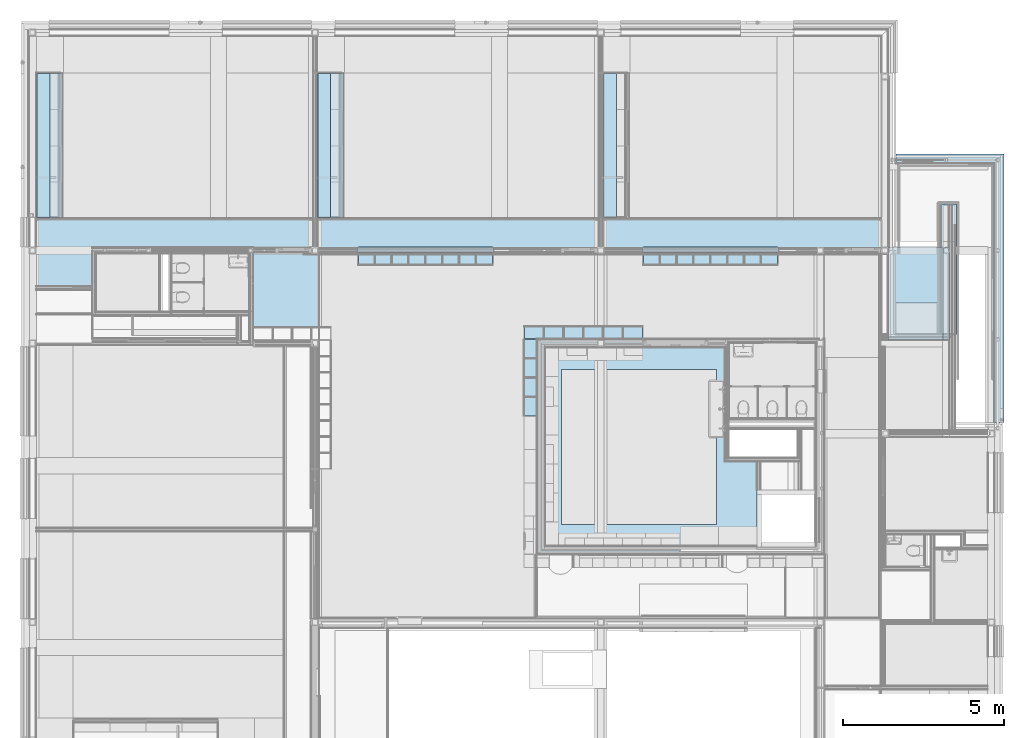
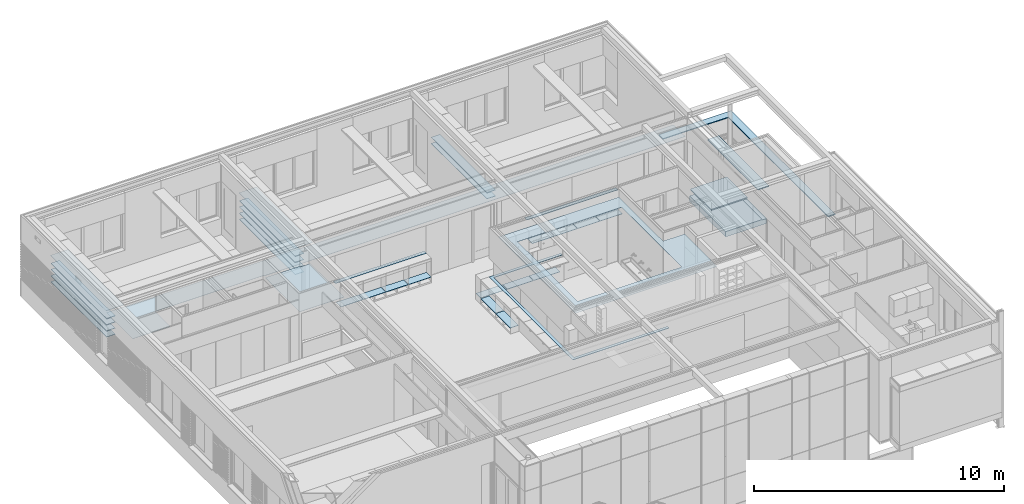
# One storey, part 40 of 137: 35 slabs.
"""IFC2X3 building model written with IfcOpenShell, lengths in millimetres."""

from ifc_helpers import new_model, entity, si_unit, converted_unit, derived_unit, money_unit, direction, frame, origin_with_axes, place, context, subcontext, project, spatial, faceted_brep, material, type_object, element, save


model = new_model("IFC2X3")

# Units and contexts
model_context = context("Model", 3, precision=0.01, world=origin_with_axes(), true_north=direction((0.0, 1.0)))
body_context = subcontext(model_context, "Body", "Model", "MODEL_VIEW")
ifc_project = project(units=[si_unit("LENGTHUNIT", "METRE", prefix="MILLI"), si_unit("AREAUNIT", "SQUARE_METRE"), si_unit("VOLUMEUNIT", "CUBIC_METRE"), converted_unit("PLANEANGLEUNIT", "DEGREE", entity("IfcPlaneAngleMeasure", 0.0174532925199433), si_unit("PLANEANGLEUNIT", "RADIAN"), dimensions=[0, 0, 0, 0, 0, 0, 0]), money_unit("EUR"), converted_unit("TIMEUNIT", "Year", entity("IfcTimeMeasure", 31556926.0), si_unit("TIMEUNIT", "SECOND"), dimensions=[0, 0, 1, 0, 0, 0, 0]), si_unit("MASSUNIT", "GRAM", prefix="KILO"), si_unit("THERMODYNAMICTEMPERATUREUNIT", "DEGREE_CELSIUS"), si_unit("LUMINOUSINTENSITYUNIT", "LUMEN"), si_unit("ENERGYUNIT", "JOULE", prefix="MEGA"), derived_unit("THERMALCONDUCTANCEUNIT", [(si_unit("POWERUNIT", "WATT"), 1), (si_unit("LENGTHUNIT", "METRE"), -1), (si_unit("THERMODYNAMICTEMPERATUREUNIT", "KELVIN"), -1)]), derived_unit("SPECIFICHEATCAPACITYUNIT", [(si_unit("ENERGYUNIT", "JOULE"), 1), (si_unit("MASSUNIT", "GRAM", prefix="KILO"), -1), (si_unit("THERMODYNAMICTEMPERATUREUNIT", "KELVIN"), -1)]), derived_unit("MASSDENSITYUNIT", [(si_unit("MASSUNIT", "GRAM", prefix="KILO"), 1), (si_unit("VOLUMEUNIT", "CUBIC_METRE"), -1)])], contexts=[model_context])

# Site, building, storey
site_placement = place(None, origin_with_axes())
site = spatial("IfcSite", under=ifc_project, at=site_placement, Name="Site", CompositionType="ELEMENT")
building_placement = place(site_placement, origin_with_axes())
building = spatial("IfcBuilding", under=site, at=building_placement, Name="Naam gebouw", CompositionType="ELEMENT")
storey_placement = place(building_placement, frame((0.0, 0.0, 3960.0), z_axis=(0.0, 0.0, 1.0), x_axis=(1.0, 0.0, 0.0)))
storey = spatial("IfcBuildingStorey", under=building, at=storey_placement, Name="1e verdieping", CompositionType="ELEMENT", Elevation=3960.0)

# Slabs
ifc_material_1 = material(Name="Gipsplaat")
slab_type_1 = type_object("IfcSlabType", Name="Gipsplaat 12", PredefinedType="NOTDEFINED")
slab_1_placement = place(storey_placement, frame((213.9999999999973, 21219.97621406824, 2600.0), z_axis=(0.0, 0.0, 1.0), x_axis=(1.0, 0.0, 0.0)))
element("IfcSlab", 1, at=slab_1_placement, inside=storey, type_object=slab_type_1, material=ifc_material_1, Name="f7 Vormvaste grondstoffen, gebonden met gips_Vloer-x", PredefinedType="NOTDEFINED", context=body_context, shape_type="Brep", body=[
    faceted_brep([(0.0, 0.0, 11.99999999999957), (0.0, 0.0, 0.0), (1730.000000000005, 0.0, 0.0), (1730.000000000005, 0.0, 11.99999999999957), (0.0, 2105.023633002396, 11.99999999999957), (0.0, 2105.023633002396, 0.0), (26172.00000000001, 2105.023633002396, 0.0), (26172.00000000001, 1167.49999999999, 0.0), (6726.000000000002, 1167.49999999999, 0.0), (6726.000000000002, 1200.000000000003, 0.0), (1730.000000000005, 1200.000000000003, 0.0), (1730.000000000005, 1200.000000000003, 11.99999999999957), (6726.000000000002, 1200.000000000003, 11.99999999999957), (6726.000000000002, 1167.49999999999, 11.99999999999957), (26172.00000000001, 1167.49999999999, 11.99999999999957), (26172.00000000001, 2105.023633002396, 11.99999999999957)], [[[0, 1, 2, 3]], [[4, 5, 1, 0]], [[2, 1, 5, 6, 7, 8, 9, 10]], [[3, 2, 10, 11]], [[4, 0, 3, 11, 12, 13, 14, 15]], [[15, 6, 5, 4]], [[14, 7, 6, 15]], [[13, 8, 7, 14]], [[12, 9, 8, 13]], [[11, 10, 9, 12]]]),
])
slab_2_placement = place(storey_placement, frame((6930.000000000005, 22262.47621406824, 2600.0), z_axis=(0.0, 0.0, 1.0), x_axis=(1.0, 0.0, 0.0)))
element("IfcSlab", 2, at=slab_2_placement, inside=storey, type_object=slab_type_1, material=ifc_material_1, Name="f7 Vormvaste grondstoffen, gebonden met gips_Vloer-x", PredefinedType="NOTDEFINED", context=body_context, shape_type="Brep", body=[
    faceted_brep([(2055.0, -2749.97640284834, 0.0), (2054.999997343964, -50.00000000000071, 0.0), (2054.999997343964, -50.00000000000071, 11.99999999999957), (2055.0, -2749.97640284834, 11.99999999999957), (1576.753722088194, 0.0, 0.0), (1576.753722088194, -50.00000000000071, 0.0), (0.0, -2749.97640284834, 0.0), (0.0, 0.0, 0.0), (1576.753722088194, -50.00000000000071, 11.99999999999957), (1576.753722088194, 0.0, 11.99999999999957), (0.0, 0.0, 11.99999999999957), (0.0, -2749.97640284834, 11.99999999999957)], [[[0, 1, 2, 3]], [[4, 5, 1, 0, 6, 7]], [[5, 8, 2, 1]], [[2, 8, 9, 10, 11, 3]], [[3, 11, 6, 0]], [[5, 4, 9, 8]], [[11, 10, 7, 6]], [[10, 9, 4, 7]]]),
])
slab_3_placement = place(storey_placement, frame((15984.99909109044, 19314.9998112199, 3200.0), z_axis=(0.0, 0.0, 1.0), x_axis=(1.0, 0.0, 0.0)))
element("IfcSlab", 3, at=slab_3_placement, inside=storey, type_object=slab_type_1, material=ifc_material_1, Name="f7 Vormvaste grondstoffen, gebonden met gips_Vloer-x", PredefinedType="NOTDEFINED", context=body_context, shape_type="Brep", body=[
    faceted_brep([(0.0, 0.0, 12.00000000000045), (0.0, 0.0, 0.0), (0.0, -6140.002029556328, 0.0), (0.0, -6140.002029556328, 12.00000000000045), (5554.999948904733, 0.0, 12.00000000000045), (5554.999948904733, 0.0, 0.0), (5554.999948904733, -3540.002029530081, 0.0), (6549.999948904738, -3540.002029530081, 0.0), (6549.999948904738, -6140.002029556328, 0.0), (5300.000038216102, -670.0000273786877, 0.0), (500.0000382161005, -670.0000273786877, 0.0), (500.0000382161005, -5470.00002737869, 0.0), (5300.000038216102, -5470.00002737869, 0.0), (6549.999948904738, -6140.002029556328, 12.00000000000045), (6549.999948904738, -3540.002029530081, 12.00000000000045), (5554.999948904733, -3540.002029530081, 12.00000000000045), (500.0000382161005, -5470.00002737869, 12.00000000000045), (500.0000382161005, -670.0000273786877, 12.00000000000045), (5300.000038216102, -670.0000273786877, 12.00000000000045), (5300.000038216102, -5470.00002737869, 12.00000000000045)], [[[0, 1, 2, 3]], [[4, 5, 1, 0]], [[2, 1, 5, 6, 7, 8], [9, 10, 11, 12]], [[3, 2, 8, 13]], [[4, 0, 3, 13, 14, 15], [16, 17, 18, 19]], [[15, 6, 5, 4]], [[14, 7, 6, 15]], [[13, 8, 7, 14]], [[17, 10, 9, 18]], [[16, 11, 10, 17]], [[19, 12, 11, 16]], [[18, 9, 12, 19]]]),
])
ifc_material_2 = material(Name="Beton gewapend prefab vloer")
slab_type_2 = type_object("IfcSlabType", Name="23 Kanaalplaat 260 260", PredefinedType="NOTDEFINED")
slab_4_placement = place(storey_placement, frame((28500.00006871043, 22424.97621300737, -389.9999999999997), z_axis=(0.0, 0.0, 1.0), x_axis=(1.0, 0.0, 0.0)))
element("IfcSlab", 4, at=slab_4_placement, inside=storey, type_object=slab_type_2, material=ifc_material_2, Name="_Vloer-x", PredefinedType="NOTDEFINED", context=body_context, shape_type="Brep", body=[
    faceted_brep([(-10.00008455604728, -189.9999989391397, -260.0000000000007), (-190.000084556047, -189.9999989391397, -260.0000000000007), (-190.000084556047, -9.999998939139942, -260.0000000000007), (-10.00008455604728, -9.999998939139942, -260.0000000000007), (-10.00008455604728, -189.9999989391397, -20.00000000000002), (-190.000084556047, -189.9999989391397, -20.00000000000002), (-190.000084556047, -9.999998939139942, -20.00000000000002), (-10.00008455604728, -9.999998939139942, -20.00000000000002)], [[[0, 1, 2, 3]], [[0, 4, 5, 1]], [[1, 5, 6, 2]], [[2, 6, 7, 3]], [[3, 7, 4, 0]], [[6, 5, 4, 7]]]),
    faceted_brep([(-5.000085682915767, -2874.975820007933, -260.0000000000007), (-5.000085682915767, -199.9999989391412, -260.0000000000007), (-5.000085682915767, -199.9999989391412, -20.00000000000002), (-5.000085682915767, -2874.975820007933, -20.00000000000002), (-195.0000856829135, -2874.975817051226, -260.0000000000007), (-195.0000856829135, -199.9999989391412, -260.0000000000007), (-195.0000856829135, -199.9999989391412, -20.00000000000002), (-195.0000856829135, -2874.975817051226, -20.00000000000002)], [[[0, 1, 2, 3]], [[4, 5, 1, 0]], [[5, 6, 2, 1]], [[3, 2, 6, 7]], [[0, 3, 7, 4]], [[7, 6, 5, 4]]]),
    faceted_brep([(-1899.000068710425, -2874.97579053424, 0.0), (-201.0000856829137, -2874.975816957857, 0.0), (-201.0000856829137, 1.060861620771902e-06, 0.0), (-1899.000068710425, 2.9551500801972e-05, 0.0), (-1899.000068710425, -2874.97579053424, -260.0000000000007), (-201.0000856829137, -2874.975816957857, -260.0000000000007), (-201.0000856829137, 1.060861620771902e-06, -260.0000000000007), (-1899.000068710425, 2.9551500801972e-05, -260.0000000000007)], [[[0, 1, 2, 3]], [[4, 5, 1, 0]], [[5, 6, 2, 1]], [[3, 2, 6, 7]], [[4, 0, 3, 7]], [[7, 6, 5, 4]]]),
])
ifc_material_3 = material(Name="Hout AFW")
slab_type_3 = type_object("IfcSlabType", Name="Hout AFW 18", PredefinedType="NOTDEFINED")
slab_5_placement = place(storey_placement, frame((17764.99945704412, 19984.99981121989, 267.9999999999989), z_axis=(0.0, 0.0, 1.0), x_axis=(1.0, 0.0, 0.0)))
element("IfcSlab", 5, at=slab_5_placement, inside=storey, type_object=slab_type_3, material=ifc_material_3, Name="i HOUT_Vloer-x", PredefinedType="NOTDEFINED", context=body_context, shape_type="Brep", body=[
    faceted_brep([(0.0, 0.0, 17.99999999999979), (0.0, 0.0, 0.0), (-1199.999997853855, 0.0, 0.0), (-1199.999997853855, 0.0, 17.99999999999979), (0.0, -380.006513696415, 17.99999999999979), (0.0, -380.006513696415, 0.0), (-1199.999997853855, -380.006513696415, 0.0), (-1199.999997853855, -380.006513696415, 17.99999999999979)], [[[0, 1, 2, 3]], [[4, 5, 1, 0]], [[2, 1, 5, 6]], [[3, 2, 6, 7]], [[4, 0, 3, 7]], [[7, 6, 5, 4]]]),
])
slab_6_placement = place(storey_placement, frame((18994.99945671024, 19604.99329752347, 267.9999999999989), z_axis=(0.0, 0.0, 1.0), x_axis=(1.0, 0.0, 0.0)))
element("IfcSlab", 6, at=slab_6_placement, inside=storey, type_object=slab_type_3, material=ifc_material_3, Name="i HOUT_Vloer-x", PredefinedType="NOTDEFINED", context=body_context, shape_type="Brep", body=[
    faceted_brep([(0.0, 0.0, 17.99999999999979), (0.0, 0.0, 0.0), (0.0, 380.006513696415, 0.0), (0.0, 380.006513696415, 17.99999999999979), (-1209.999999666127, 0.0, 17.99999999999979), (-1209.999999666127, 0.0, 0.0), (-1209.999999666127, 380.006513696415, 0.0), (-1209.999999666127, 380.006513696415, 17.99999999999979)], [[[0, 1, 2, 3]], [[4, 5, 1, 0]], [[2, 1, 5, 6]], [[3, 2, 6, 7]], [[4, 0, 3, 7]], [[7, 6, 5, 4]]]),
])
slab_7_placement = place(storey_placement, frame((15314.99945671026, 18374.9998112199, 267.9999999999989), z_axis=(0.0, 0.0, 1.0), x_axis=(1.0, 0.0, 0.0)))
element("IfcSlab", 7, at=slab_7_placement, inside=storey, type_object=slab_type_3, material=ifc_material_3, Name="i HOUT_Vloer-x", PredefinedType="NOTDEFINED", context=body_context, shape_type="Brep", body=[
    faceted_brep([(0.0, 0.0, 17.99999999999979), (0.0, 0.0, 0.0), (0.0, -1170.000000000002, 0.0), (0.0, -1170.000000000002, 17.99999999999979), (380.006513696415, 0.0, 17.99999999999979), (380.006513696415, 0.0, 0.0), (380.006513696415, -1170.000000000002, 0.0), (380.006513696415, -1170.000000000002, 17.99999999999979)], [[[0, 1, 2, 3]], [[4, 5, 1, 0]], [[2, 1, 5, 6]], [[3, 2, 6, 7]], [[4, 0, 3, 7]], [[7, 6, 5, 4]]]),
])
slab_8_placement = place(storey_placement, frame((16544.99945919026, 19984.99981121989, 267.9999999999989), z_axis=(0.0, 0.0, 1.0), x_axis=(1.0, 0.0, 0.0)))
element("IfcSlab", 8, at=slab_8_placement, inside=storey, type_object=slab_type_3, material=ifc_material_3, Name="i HOUT_Vloer-x", PredefinedType="NOTDEFINED", context=body_context, shape_type="Brep", body=[
    faceted_brep([(0.0, 0.0, 17.99999999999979), (0.0, 0.0, 0.0), (-1210.000002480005, 0.0, 0.0), (-1210.000002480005, 0.0, 17.99999999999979), (0.0, -380.006513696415, 17.99999999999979), (0.0, -380.006513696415, 0.0), (-1210.000002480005, -380.006513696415, 0.0), (-1210.000002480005, -380.006513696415, 17.99999999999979)], [[[0, 1, 2, 3]], [[4, 5, 1, 0]], [[2, 1, 5, 6]], [[3, 2, 6, 7]], [[4, 0, 3, 7]], [[7, 6, 5, 4]]]),
])
slab_9_placement = place(storey_placement, frame((15695.00597040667, 19564.9998112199, 267.9999999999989), z_axis=(0.0, 0.0, 1.0), x_axis=(1.0, 0.0, 0.0)))
element("IfcSlab", 9, at=slab_9_placement, inside=storey, type_object=slab_type_3, material=ifc_material_3, Name="i HOUT_Vloer-x", PredefinedType="NOTDEFINED", context=body_context, shape_type="Brep", body=[
    faceted_brep([(0.0, 0.0, 17.99999999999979), (0.0, 0.0, 0.0), (-380.006513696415, 0.0, 0.0), (-380.006513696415, 0.0, 17.99999999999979), (0.0, -1169.999999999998, 17.99999999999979), (0.0, -1169.999999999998, 0.0), (-380.006513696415, -1169.999999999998, 0.0), (-380.006513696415, -1169.999999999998, 17.99999999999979)], [[[0, 1, 2, 3]], [[4, 5, 1, 0]], [[2, 1, 5, 6]], [[3, 2, 6, 7]], [[4, 0, 3, 7]], [[7, 6, 5, 4]]]),
])
slab_10_placement = place(storey_placement, frame((10190.00000000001, 22242.48272776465, 267.9999999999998), z_axis=(0.0, 0.0, 1.0), x_axis=(1.0, 0.0, 0.0)))
element("IfcSlab", 10, at=slab_10_placement, inside=storey, type_object=slab_type_3, material=ifc_material_3, Name="i HOUT_Vloer-x", PredefinedType="NOTDEFINED", context=body_context, shape_type="Brep", body=[
    faceted_brep([(0.0, 0.0, 18.00000000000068), (0.0, 0.0, 0.0), (0.0, -380.006513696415, 0.0), (0.0, -380.006513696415, 18.00000000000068), (1024.995906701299, 0.0, 18.00000000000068), (1024.995906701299, 0.0, 0.0), (1024.995906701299, -380.006513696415, 0.0), (1024.995906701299, -380.006513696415, 18.00000000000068)], [[[0, 1, 2, 3]], [[4, 5, 1, 0]], [[2, 1, 5, 6]], [[3, 2, 6, 7]], [[4, 0, 3, 7]], [[7, 6, 5, 4]]]),
])
slab_11_placement = place(storey_placement, frame((11234.99590670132, 21862.47621406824, 267.9999999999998), z_axis=(0.0, 0.0, 1.0), x_axis=(1.0, 0.0, 0.0)))
element("IfcSlab", 11, at=slab_11_placement, inside=storey, type_object=slab_type_3, material=ifc_material_3, Name="i HOUT_Vloer-x", PredefinedType="NOTDEFINED", context=body_context, shape_type="Brep", body=[
    faceted_brep([(0.0, 0.0, 18.00000000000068), (0.0, 0.0, 0.0), (1024.991813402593, 0.0, 0.0), (1024.991813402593, 0.0, 18.00000000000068), (0.0, 380.006513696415, 18.00000000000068), (0.0, 380.006513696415, 0.0), (1024.991813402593, 380.006513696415, 0.0), (1024.991813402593, 380.006513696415, 18.00000000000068)], [[[0, 1, 2, 3]], [[4, 5, 1, 0]], [[2, 1, 5, 6]], [[3, 2, 6, 7]], [[4, 0, 3, 7]], [[7, 6, 5, 4]]]),
])
slab_12_placement = place(storey_placement, frame((12279.98772010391, 21862.47621406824, 267.9999999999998), z_axis=(0.0, 0.0, 1.0), x_axis=(1.0, 0.0, 0.0)))
element("IfcSlab", 12, at=slab_12_placement, inside=storey, type_object=slab_type_3, material=ifc_material_3, Name="i HOUT_Vloer-x", PredefinedType="NOTDEFINED", context=body_context, shape_type="Brep", body=[
    faceted_brep([(0.0, 0.0, 18.00000000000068), (0.0, 0.0, 0.0), (1024.991813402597, 0.0, 0.0), (1024.991813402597, 0.0, 18.00000000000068), (0.0, 380.006513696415, 18.00000000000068), (0.0, 380.006513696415, 0.0), (1024.991813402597, 380.006513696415, 0.0), (1024.991813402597, 380.006513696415, 18.00000000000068)], [[[0, 1, 2, 3]], [[4, 5, 1, 0]], [[2, 1, 5, 6]], [[3, 2, 6, 7]], [[4, 0, 3, 7]], [[7, 6, 5, 4]]]),
])
slab_13_placement = place(storey_placement, frame((13324.97953350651, 21862.47621406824, 267.9999999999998), z_axis=(0.0, 0.0, 1.0), x_axis=(1.0, 0.0, 0.0)))
element("IfcSlab", 13, at=slab_13_placement, inside=storey, type_object=slab_type_3, material=ifc_material_3, Name="i HOUT_Vloer-x", PredefinedType="NOTDEFINED", context=body_context, shape_type="Brep", body=[
    faceted_brep([(0.0, 0.0, 18.00000000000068), (0.0, 0.0, 0.0), (1025.020466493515, 0.0, 0.0), (1025.020466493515, 0.0, 18.00000000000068), (0.0, 380.006513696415, 18.00000000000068), (0.0, 380.006513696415, 0.0), (1025.020466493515, 380.006513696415, 0.0), (1025.020466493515, 380.006513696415, 18.00000000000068)], [[[0, 1, 2, 3]], [[4, 5, 1, 0]], [[2, 1, 5, 6]], [[3, 2, 6, 7]], [[4, 0, 3, 7]], [[7, 6, 5, 4]]]),
])
slab_14_placement = place(storey_placement, frame((19019.9990399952, 22242.48272776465, 267.9999999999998), z_axis=(0.0, 0.0, 1.0), x_axis=(1.0, 0.0, 0.0)))
element("IfcSlab", 14, at=slab_14_placement, inside=storey, type_object=slab_type_3, material=ifc_material_3, Name="i HOUT_Vloer-x", PredefinedType="NOTDEFINED", context=body_context, shape_type="Brep", body=[
    faceted_brep([(0.0, 0.0, 18.00000000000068), (0.0, 0.0, 0.0), (0.0, -380.006513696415, 0.0), (0.0, -380.006513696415, 18.00000000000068), (1024.995906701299, 0.0, 18.00000000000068), (1024.995906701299, 0.0, 0.0), (1024.995906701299, -380.006513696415, 0.0), (1024.995906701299, -380.006513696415, 18.00000000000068)], [[[0, 1, 2, 3]], [[4, 5, 1, 0]], [[2, 1, 5, 6]], [[3, 2, 6, 7]], [[4, 0, 3, 7]], [[7, 6, 5, 4]]]),
])
slab_15_placement = place(storey_placement, frame((20064.9949466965, 21862.47621406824, 267.9999999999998), z_axis=(0.0, 0.0, 1.0), x_axis=(1.0, 0.0, 0.0)))
element("IfcSlab", 15, at=slab_15_placement, inside=storey, type_object=slab_type_3, material=ifc_material_3, Name="i HOUT_Vloer-x", PredefinedType="NOTDEFINED", context=body_context, shape_type="Brep", body=[
    faceted_brep([(0.0, 0.0, 18.00000000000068), (0.0, 0.0, 0.0), (1024.991813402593, 0.0, 0.0), (1024.991813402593, 0.0, 18.00000000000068), (0.0, 380.006513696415, 18.00000000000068), (0.0, 380.006513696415, 0.0), (1024.991813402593, 380.006513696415, 0.0), (1024.991813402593, 380.006513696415, 18.00000000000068)], [[[0, 1, 2, 3]], [[4, 5, 1, 0]], [[2, 1, 5, 6]], [[3, 2, 6, 7]], [[4, 0, 3, 7]], [[7, 6, 5, 4]]]),
])
slab_16_placement = place(storey_placement, frame((21109.9867600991, 21862.47621406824, 267.9999999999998), z_axis=(0.0, 0.0, 1.0), x_axis=(1.0, 0.0, 0.0)))
element("IfcSlab", 16, at=slab_16_placement, inside=storey, type_object=slab_type_3, material=ifc_material_3, Name="i HOUT_Vloer-x", PredefinedType="NOTDEFINED", context=body_context, shape_type="Brep", body=[
    faceted_brep([(0.0, 0.0, 18.00000000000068), (0.0, 0.0, 0.0), (1024.991813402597, 0.0, 0.0), (1024.991813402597, 0.0, 18.00000000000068), (0.0, 380.006513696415, 18.00000000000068), (0.0, 380.006513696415, 0.0), (1024.991813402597, 380.006513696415, 0.0), (1024.991813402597, 380.006513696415, 18.00000000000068)], [[[0, 1, 2, 3]], [[4, 5, 1, 0]], [[2, 1, 5, 6]], [[3, 2, 6, 7]], [[4, 0, 3, 7]], [[7, 6, 5, 4]]]),
])
slab_17_placement = place(storey_placement, frame((22154.9785735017, 21862.47621406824, 267.9999999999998), z_axis=(0.0, 0.0, 1.0), x_axis=(1.0, 0.0, 0.0)))
element("IfcSlab", 17, at=slab_17_placement, inside=storey, type_object=slab_type_3, material=ifc_material_3, Name="i HOUT_Vloer-x", PredefinedType="NOTDEFINED", context=body_context, shape_type="Brep", body=[
    faceted_brep([(0.0, 0.0, 18.00000000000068), (0.0, 0.0, 0.0), (1025.020466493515, 0.0, 0.0), (1025.020466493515, 0.0, 18.00000000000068), (0.0, 380.006513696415, 18.00000000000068), (0.0, 380.006513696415, 0.0), (1025.020466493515, 380.006513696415, 0.0), (1025.020466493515, 380.006513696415, 18.00000000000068)], [[[0, 1, 2, 3]], [[4, 5, 1, 0]], [[2, 1, 5, 6]], [[3, 2, 6, 7]], [[4, 0, 3, 7]], [[7, 6, 5, 4]]]),
])
ifc_material_4 = material(Name="Hout - Multiplex")
slab_type_4 = type_object("IfcSlabType", Name="Hout - Multiplex 20", PredefinedType="NOTDEFINED")
for number, where, z_axis, x_axis in (
    (18, (23199.9990399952, 22437.47925041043, 1200.0), (0.0, 0.0, 1.0), (1.0, 0.0, 0.0)),
    (19, (14370.00000000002, 22437.47925041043, 1200.0), (0.0, 0.0, 1.0), (1.0, 0.0, 0.0)),
):
    element("IfcSlab", number, at=place(storey_placement, frame(where, z_axis=z_axis, x_axis=x_axis)), inside=storey, type_object=slab_type_4, material=ifc_material_4, Name="i4 In lagen verlijmd hout_Vloer-x", PredefinedType="NOTDEFINED", context=body_context, shape_type="Brep", body=[
        faceted_brep([(0.0, 0.0, 0.0), (0.0, 0.0, -19.99999999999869), (-4199.99990469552, 0.0, -19.99999999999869), (-4199.99990469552, 0.0, 0.0), (0.0, -174.9999999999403, 0.0), (0.0, -174.9999999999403, -19.99999999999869), (-4199.99990469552, -174.9999999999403, -19.99999999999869), (-4199.99990469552, -174.9999999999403, 0.0)], [[[0, 1, 2, 3]], [[4, 5, 1, 0]], [[2, 1, 5, 6]], [[3, 2, 6, 7]], [[4, 0, 3, 7]], [[7, 6, 5, 4]]]),
    ])
slab_18_placement = place(storey_placement, frame((18184.49942456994, 23347.99984707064, 2300.0), z_axis=(0.0, 0.0, 1.0), x_axis=(1.0, 0.0, 0.0)))
element("IfcSlab", 20, at=slab_18_placement, inside=storey, type_object=slab_type_4, material=ifc_material_4, Name="i4 In lagen verlijmd hout_Vloer-x", PredefinedType="NOTDEFINED", context=body_context, shape_type="Brep", body=[
    faceted_brep([(0.0, 0.0, 0.0), (0.0, 0.0, -19.99999999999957), (0.0, 4460.000000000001, -19.99999999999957), (0.0, 4460.000000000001, 0.0), (-400.0000000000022, 0.0, 0.0), (-400.0000000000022, 0.0, -19.99999999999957), (-400.0000000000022, 4460.000000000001, -19.99999999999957), (-400.0000000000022, 4460.000000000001, 0.0)], [[[0, 1, 2, 3]], [[4, 5, 1, 0]], [[2, 1, 5, 6]], [[3, 2, 6, 7]], [[4, 0, 3, 7]], [[7, 6, 5, 4]]]),
])
slab_19_placement = place(storey_placement, frame((18184.49942456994, 23347.99984707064, 1999.999999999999), z_axis=(0.0, 0.0, 1.0), x_axis=(1.0, 0.0, 0.0)))
element("IfcSlab", 21, at=slab_19_placement, inside=storey, type_object=slab_type_4, material=ifc_material_4, Name="i4 In lagen verlijmd hout_Vloer-x", PredefinedType="NOTDEFINED", context=body_context, shape_type="Brep", body=[
    faceted_brep([(0.0, 0.0, 0.0), (0.0, 0.0, -19.99999999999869), (0.0, 4460.000000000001, -19.99999999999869), (0.0, 4460.000000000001, 0.0), (-400.0000000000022, 0.0, 0.0), (-400.0000000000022, 0.0, -19.99999999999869), (-400.0000000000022, 4460.000000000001, -19.99999999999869), (-400.0000000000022, 4460.000000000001, 0.0)], [[[0, 1, 2, 3]], [[4, 5, 1, 0]], [[2, 1, 5, 6]], [[3, 2, 6, 7]], [[4, 0, 3, 7]], [[7, 6, 5, 4]]]),
])
slab_20_placement = place(storey_placement, frame((19014.99945671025, 19584.9998112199, 1200.0), z_axis=(0.0, 0.0, 1.0), x_axis=(1.0, 0.0, 0.0)))
element("IfcSlab", 22, at=slab_20_placement, inside=storey, type_object=slab_type_4, material=ifc_material_4, Name="i4 In lagen verlijmd hout_Vloer-x", PredefinedType="NOTDEFINED", context=body_context, shape_type="Brep", body=[
    faceted_brep([(0.0, 0.0, 0.0), (0.0, 0.0, -19.99999999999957), (-3300.000000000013, 0.0, -19.99999999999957), (-3300.000000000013, 0.0, 0.0), (0.0, -135.0000000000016, 0.0), (0.0, -135.0000000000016, -19.99999999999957), (-3165.000000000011, -135.0000000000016, -19.99999999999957), (-3165.00000000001, -6545.000000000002, -19.99999999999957), (1145.007161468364, -6545.00000000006, -19.99999999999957), (1145.007161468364, -6679.999999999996, -19.99999999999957), (-3300.000000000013, -6679.999999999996, -19.99999999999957), (-3300.000000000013, -6679.999999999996, 0.0), (1145.007161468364, -6679.999999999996, 0.0), (1145.007161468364, -6545.00000000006, 0.0), (-3165.00000000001, -6545.000000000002, 0.0), (-3165.000000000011, -135.0000000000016, 0.0)], [[[0, 1, 2, 3]], [[4, 5, 1, 0]], [[2, 1, 5, 6, 7, 8, 9, 10]], [[3, 2, 10, 11]], [[4, 0, 3, 11, 12, 13, 14, 15]], [[15, 6, 5, 4]], [[14, 7, 6, 15]], [[13, 8, 7, 14]], [[12, 9, 8, 13]], [[11, 10, 9, 12]]]),
])
slab_21_placement = place(storey_placement, frame((9334.500000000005, 23347.99984707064, 2300.0), z_axis=(0.0, 0.0, 1.0), x_axis=(1.0, 0.0, 0.0)))
element("IfcSlab", 23, at=slab_21_placement, inside=storey, type_object=slab_type_4, material=ifc_material_4, Name="i4 In lagen verlijmd hout_Vloer-x", PredefinedType="NOTDEFINED", context=body_context, shape_type="Brep", body=[
    faceted_brep([(0.0, 0.0, 0.0), (0.0, 0.0, -19.99999999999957), (0.0, 4460.000000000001, -19.99999999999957), (0.0, 4460.000000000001, 0.0), (-400.0000000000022, 0.0, 0.0), (-400.0000000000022, 0.0, -19.99999999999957), (-400.0000000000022, 4460.000000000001, -19.99999999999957), (-400.0000000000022, 4460.000000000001, 0.0)], [[[0, 1, 2, 3]], [[4, 5, 1, 0]], [[2, 1, 5, 6]], [[3, 2, 6, 7]], [[4, 0, 3, 7]], [[7, 6, 5, 4]]]),
])
slab_22_placement = place(storey_placement, frame((9334.500000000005, 23347.99984707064, 1999.999999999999), z_axis=(0.0, 0.0, 1.0), x_axis=(1.0, 0.0, 0.0)))
element("IfcSlab", 24, at=slab_22_placement, inside=storey, type_object=slab_type_4, material=ifc_material_4, Name="i4 In lagen verlijmd hout_Vloer-x", PredefinedType="NOTDEFINED", context=body_context, shape_type="Brep", body=[
    faceted_brep([(0.0, 0.0, 0.0), (0.0, 0.0, -19.99999999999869), (0.0, 4460.000000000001, -19.99999999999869), (0.0, 4460.000000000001, 0.0), (-400.0000000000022, 0.0, 0.0), (-400.0000000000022, 0.0, -19.99999999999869), (-400.0000000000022, 4460.000000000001, -19.99999999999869), (-400.0000000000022, 4460.000000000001, 0.0)], [[[0, 1, 2, 3]], [[4, 5, 1, 0]], [[2, 1, 5, 6]], [[3, 2, 6, 7]], [[4, 0, 3, 7]], [[7, 6, 5, 4]]]),
])
slab_23_placement = place(storey_placement, frame((9334.500000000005, 23347.99984707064, 1400.0), z_axis=(0.0, 0.0, 1.0), x_axis=(1.0, 0.0, 0.0)))
element("IfcSlab", 25, at=slab_23_placement, inside=storey, type_object=slab_type_4, material=ifc_material_4, Name="i4 In lagen verlijmd hout_Vloer-x", PredefinedType="NOTDEFINED", context=body_context, shape_type="Brep", body=[
    faceted_brep([(0.0, 0.0, 0.0), (0.0, 0.0, -19.99999999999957), (0.0, 4460.000000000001, -19.99999999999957), (0.0, 4460.000000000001, 0.0), (-400.0000000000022, 0.0, 0.0), (-400.0000000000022, 0.0, -19.99999999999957), (-400.0000000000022, 4460.000000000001, -19.99999999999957), (-400.0000000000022, 4460.000000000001, 0.0)], [[[0, 1, 2, 3]], [[4, 5, 1, 0]], [[2, 1, 5, 6]], [[3, 2, 6, 7]], [[4, 0, 3, 7]], [[7, 6, 5, 4]]]),
])
slab_24_placement = place(storey_placement, frame((9334.500000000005, 23347.99984707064, 1699.999999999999), z_axis=(0.0, 0.0, 1.0), x_axis=(1.0, 0.0, 0.0)))
element("IfcSlab", 26, at=slab_24_placement, inside=storey, type_object=slab_type_4, material=ifc_material_4, Name="i4 In lagen verlijmd hout_Vloer-x", PredefinedType="NOTDEFINED", context=body_context, shape_type="Brep", body=[
    faceted_brep([(0.0, 0.0, 0.0), (0.0, 0.0, -19.99999999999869), (0.0, 4460.000000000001, -19.99999999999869), (0.0, 4460.000000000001, 0.0), (-400.0000000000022, 0.0, 0.0), (-400.0000000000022, 0.0, -19.99999999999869), (-400.0000000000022, 4460.000000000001, -19.99999999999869), (-400.0000000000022, 4460.000000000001, 0.0)], [[[0, 1, 2, 3]], [[4, 5, 1, 0]], [[2, 1, 5, 6]], [[3, 2, 6, 7]], [[4, 0, 3, 7]], [[7, 6, 5, 4]]]),
])
slab_25_placement = place(storey_placement, frame((9739.500000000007, 23347.99984707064, 2689.999999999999), z_axis=(0.0, 0.0, 1.0), x_axis=(1.0, 0.0, 0.0)))
element("IfcSlab", 27, at=slab_25_placement, inside=storey, type_object=slab_type_4, material=ifc_material_4, Name="i4 In lagen verlijmd hout_Vloer-x", PredefinedType="NOTDEFINED", context=body_context, shape_type="Brep", body=[
    faceted_brep([(0.0, 0.0, 0.0), (0.0, 0.0, -19.99999999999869), (0.0, 4460.000000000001, -19.99999999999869), (0.0, 4460.000000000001, 0.0), (-825.0000000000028, 0.0, 0.0), (-825.0000000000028, 0.0, -19.99999999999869), (-825.0000000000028, 4460.000000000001, -19.99999999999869), (-825.0000000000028, 4460.000000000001, 0.0)], [[[0, 1, 2, 3]], [[4, 5, 1, 0]], [[2, 1, 5, 6]], [[3, 2, 6, 7]], [[4, 0, 3, 7]], [[7, 6, 5, 4]]]),
])
slab_26_placement = place(storey_placement, frame((636.0000000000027, 23347.99984707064, 2300.0), z_axis=(0.0, 0.0, 1.0), x_axis=(1.0, 0.0, 0.0)))
element("IfcSlab", 28, at=slab_26_placement, inside=storey, type_object=slab_type_4, material=ifc_material_4, Name="i4 In lagen verlijmd hout_Vloer-x", PredefinedType="NOTDEFINED", context=body_context, shape_type="Brep", body=[
    faceted_brep([(0.0, 0.0, 0.0), (0.0, 0.0, -19.99999999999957), (0.0, 4460.000000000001, -19.99999999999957), (0.0, 4460.000000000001, 0.0), (-400.0000000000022, 0.0, 0.0), (-400.0000000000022, 0.0, -19.99999999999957), (-400.0000000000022, 4460.000000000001, -19.99999999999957), (-400.0000000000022, 4460.000000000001, 0.0)], [[[0, 1, 2, 3]], [[4, 5, 1, 0]], [[2, 1, 5, 6]], [[3, 2, 6, 7]], [[4, 0, 3, 7]], [[7, 6, 5, 4]]]),
])
slab_27_placement = place(storey_placement, frame((636.0000000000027, 23347.99984707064, 1999.999999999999), z_axis=(0.0, 0.0, 1.0), x_axis=(1.0, 0.0, 0.0)))
element("IfcSlab", 29, at=slab_27_placement, inside=storey, type_object=slab_type_4, material=ifc_material_4, Name="i4 In lagen verlijmd hout_Vloer-x", PredefinedType="NOTDEFINED", context=body_context, shape_type="Brep", body=[
    faceted_brep([(0.0, 0.0, 0.0), (0.0, 0.0, -19.99999999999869), (0.0, 4460.000000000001, -19.99999999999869), (0.0, 4460.000000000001, 0.0), (-400.0000000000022, 0.0, 0.0), (-400.0000000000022, 0.0, -19.99999999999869), (-400.0000000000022, 4460.000000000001, -19.99999999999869), (-400.0000000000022, 4460.000000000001, 0.0)], [[[0, 1, 2, 3]], [[4, 5, 1, 0]], [[2, 1, 5, 6]], [[3, 2, 6, 7]], [[4, 0, 3, 7]], [[7, 6, 5, 4]]]),
])
slab_28_placement = place(storey_placement, frame((636.0000000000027, 23347.99984707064, 1400.0), z_axis=(0.0, 0.0, 1.0), x_axis=(1.0, 0.0, 0.0)))
element("IfcSlab", 30, at=slab_28_placement, inside=storey, type_object=slab_type_4, material=ifc_material_4, Name="i4 In lagen verlijmd hout_Vloer-x", PredefinedType="NOTDEFINED", context=body_context, shape_type="Brep", body=[
    faceted_brep([(0.0, 0.0, 0.0), (0.0, 0.0, -19.99999999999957), (0.0, 4460.000000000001, -19.99999999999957), (0.0, 4460.000000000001, 0.0), (-400.0000000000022, 0.0, 0.0), (-400.0000000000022, 0.0, -19.99999999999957), (-400.0000000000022, 4460.000000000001, -19.99999999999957), (-400.0000000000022, 4460.000000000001, 0.0)], [[[0, 1, 2, 3]], [[4, 5, 1, 0]], [[2, 1, 5, 6]], [[3, 2, 6, 7]], [[4, 0, 3, 7]], [[7, 6, 5, 4]]]),
])
slab_29_placement = place(storey_placement, frame((636.0000000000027, 23347.99984707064, 1699.999999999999), z_axis=(0.0, 0.0, 1.0), x_axis=(1.0, 0.0, 0.0)))
element("IfcSlab", 31, at=slab_29_placement, inside=storey, type_object=slab_type_4, material=ifc_material_4, Name="i4 In lagen verlijmd hout_Vloer-x", PredefinedType="NOTDEFINED", context=body_context, shape_type="Brep", body=[
    faceted_brep([(0.0, 0.0, 0.0), (0.0, 0.0, -19.99999999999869), (0.0, 4460.000000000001, -19.99999999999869), (0.0, 4460.000000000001, 0.0), (-400.0000000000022, 0.0, 0.0), (-400.0000000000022, 0.0, -19.99999999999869), (-400.0000000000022, 4460.000000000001, -19.99999999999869), (-400.0000000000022, 4460.000000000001, 0.0)], [[[0, 1, 2, 3]], [[4, 5, 1, 0]], [[2, 1, 5, 6]], [[3, 2, 6, 7]], [[4, 0, 3, 7]], [[7, 6, 5, 4]]]),
])
slab_30_placement = place(storey_placement, frame((1041.000000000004, 23347.99984707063, 2689.999999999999), z_axis=(0.0, 0.0, 1.0), x_axis=(1.0, 0.0, 0.0)))
element("IfcSlab", 32, at=slab_30_placement, inside=storey, type_object=slab_type_4, material=ifc_material_4, Name="i4 In lagen verlijmd hout_Vloer-x", PredefinedType="NOTDEFINED", context=body_context, shape_type="Brep", body=[
    faceted_brep([(0.0, 0.0, 0.0), (0.0, 0.0, -19.99999999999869), (0.0, 4460.000000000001, -19.99999999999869), (0.0, 4460.000000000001, 0.0), (-825.0000000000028, 0.0, 0.0), (-825.0000000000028, 0.0, -19.99999999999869), (-825.0000000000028, 4460.000000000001, -19.99999999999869), (-825.0000000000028, 4460.000000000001, 0.0)], [[[0, 1, 2, 3]], [[4, 5, 1, 0]], [[2, 1, 5, 6]], [[3, 2, 6, 7]], [[4, 0, 3, 7]], [[7, 6, 5, 4]]]),
])
ifc_material_5 = material(Name="Beton C")
slab_type_5 = type_object("IfcSlabType", Name="Beton C 50", PredefinedType="NOTDEFINED")
slab_31_placement = place(storey_placement, frame((28286.00002502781, 22364.97620366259, -10.00000000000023), z_axis=(0.0, 0.0, 1.0), x_axis=(1.0, 0.0, 0.0)))
element("IfcSlab", 33, at=slab_31_placement, inside=storey, type_object=slab_type_5, material=ifc_material_5, Name="f2- Met cement gebonden producten (alle vulmiddelen)_Vloer-x", PredefinedType="NOTDEFINED", context=body_context, shape_type="Brep", body=[
    faceted_brep([(0.0, 0.0, 0.0), (0.0, 0.0, -49.99999999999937), (-1686.000028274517, 0.0, -49.99999999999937), (-1686.000028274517, 0.0, 0.0), (0.0, -1658.975819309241, 0.0), (0.0, -1658.975819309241, -49.99999999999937), (-1686.000028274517, -1658.975819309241, -49.99999999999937), (-1686.000028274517, -1658.975819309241, 0.0)], [[[0, 1, 2, 3]], [[4, 5, 1, 0]], [[2, 1, 5, 6]], [[3, 2, 6, 7]], [[4, 0, 3, 7]], [[7, 6, 5, 4]]]),
])
ifc_material_6 = material(Name="Metaal - Aluminium")
slab_type_6 = type_object("IfcSlabType", Name="Metaal - Aluminium 40", PredefinedType="NOTDEFINED")
slab_32_placement = place(storey_placement, frame((28197.00002397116, 19726.00039292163, 960.0000625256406), z_axis=(0.0, 0.0, 1.0), x_axis=(1.0, 0.0, 0.0)))
element("IfcSlab", 34, at=slab_32_placement, inside=storey, type_object=slab_type_6, material=ifc_material_6, Name="h4 Aluminium, aluminiumlegeringen_Vloer-x", PredefinedType="NOTDEFINED", context=body_context, shape_type="Brep", body=[
    faceted_brep([(0.0, 0.0, 40.00000000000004), (0.0, 0.0, 0.0), (519.0000000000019, 0.0, 0.0), (519.0000000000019, 0.0, 40.00000000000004), (0.0, 4034.853918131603, 40.00000000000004), (0.0, 4034.853918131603, 0.0), (519.0000000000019, 4034.853918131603, 0.0), (519.0000000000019, 4034.853918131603, 40.00000000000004)], [[[0, 1, 2, 3]], [[4, 5, 1, 0]], [[2, 1, 5, 6]], [[3, 2, 6, 7]], [[4, 0, 3, 7]], [[7, 6, 5, 4]]]),
])
slab_33_placement = place(storey_placement, frame((30189.99999999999, 16999.99778166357, 725.0000000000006), z_axis=(0.0, 0.0, 1.0), x_axis=(1.0, 0.0, 0.0)))
element("IfcSlab", 35, at=slab_33_placement, inside=storey, type_object=slab_type_6, material=ifc_material_6, Name="h4 Aluminium, aluminiumlegeringen_Vloer-x", PredefinedType="NOTDEFINED", context=body_context, shape_type="Brep", body=[
    faceted_brep([(0.0, 0.0, 40.00000000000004), (0.0, 0.0, 0.0), (0.0, 8314.978438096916, 0.0), (0.0, 8314.978438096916, 40.00000000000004), (-335.0000000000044, 0.0, 40.00000000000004), (-335.0000000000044, 0.0, 0.0), (-335.0000000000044, 7979.978438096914, 0.0), (-3339.999999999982, 7979.978438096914, 0.0), (-3339.999999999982, 8314.978438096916, 0.0), (-3339.999999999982, 8314.978438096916, 40.00000000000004), (-3339.999999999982, 7979.978438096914, 40.00000000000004), (-335.0000000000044, 7979.978438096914, 40.00000000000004)], [[[0, 1, 2, 3]], [[4, 5, 1, 0]], [[2, 1, 5, 6, 7, 8]], [[3, 2, 8, 9]], [[4, 0, 3, 9, 10, 11]], [[11, 6, 5, 4]], [[10, 7, 6, 11]], [[9, 8, 7, 10]]]),
])

save(model, "model.ifc")
